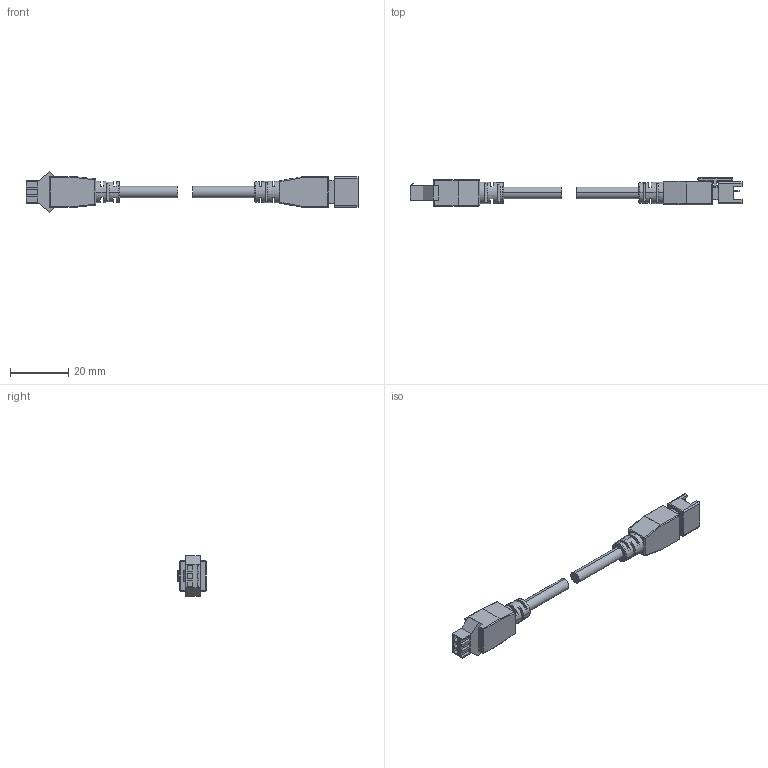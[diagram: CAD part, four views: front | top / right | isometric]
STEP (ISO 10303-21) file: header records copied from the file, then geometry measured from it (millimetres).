
FILE_DESCRIPTION((''),'2;1');
FILE_NAME('MV-LW-001-1-S_ASM','2021-01-09T',('win7'),(''),'PRO/ENGINEER BY PARAMETRIC TECHNOLOGY CORPORATION, 2010100','PRO/ENGINEER BY PARAMETRIC TECHNOLOGY CORPORATION, 2010100','');
FILE_SCHEMA(('CONFIG_CONTROL_DESIGN'));
Length unit declared in the file: millimetre
Products named in the file (3): SMR-03V-B; SMP-03V-BC; MV-LW-001-1-S_ASM
Assembly tree (2 placements, depth 2):
  MV-LW-001-1-S_ASM
    SMR-03V-B
    SMP-03V-BC
Bounding box: 113.6 x 9.65 x 14 mm (x, y, z)
Volume: 4497.3 mm3; surface area: 3696.5 mm2
Topology: 2 solids, 2 shells, 326 faces, 814 edges, 511 vertices
Faces by surface type: plane 211, cylinder 77, sphere 16, torus 10, bspline 8, cone 4
Entity records: 9844 total; most frequent: CARTESIAN_POINT 1944, ORIENTED_EDGE 1628, DIRECTION 1624, EDGE_CURVE 814, VECTOR 566, LINE 566, AXIS2_PLACEMENT_3D 529, VERTEX_POINT 511
